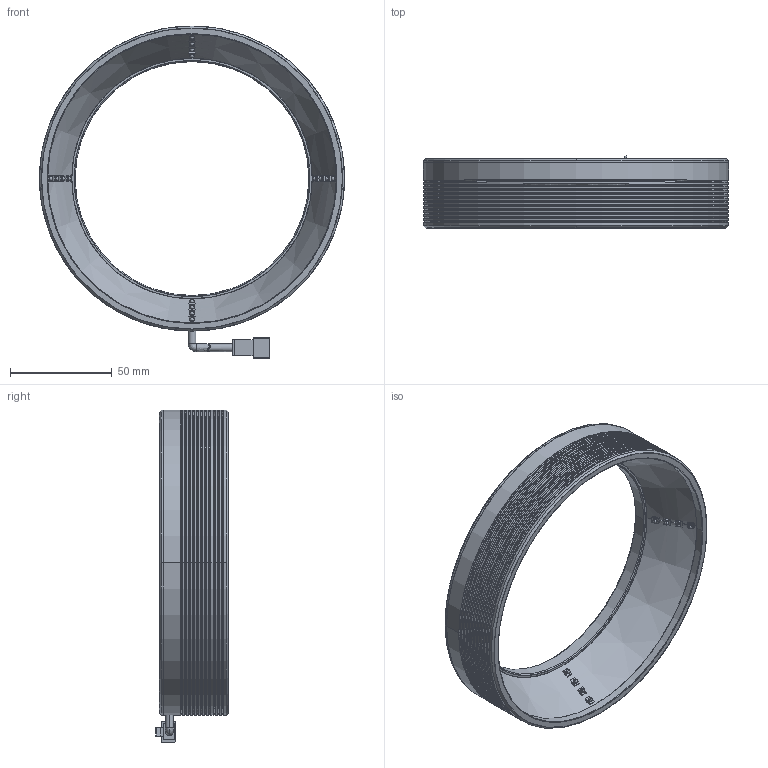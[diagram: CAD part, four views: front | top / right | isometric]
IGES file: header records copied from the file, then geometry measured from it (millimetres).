
Start section: SolidWorks IGES file using analytic representation for surfaces
Global section: file name: E:\SynologyDrive\新款图纸\标准产品\环光\环光60\R15060-115\ED\R15060-115.IGS; native system: SolidWorks 2020; preprocessor: SolidWorks 2020; author: Administrator; date: 200827.115534; units: millimetre
Bounding box: 150 x 35.65 x 163.22 mm (x, y, z)
Surface area: 80771.3 mm2 (no closed solid volume)
Topology: 0 solids, 0 shells, 395 faces, 4917 edges, 4885 vertices
Faces by surface type: bspline 225, revolution 170
